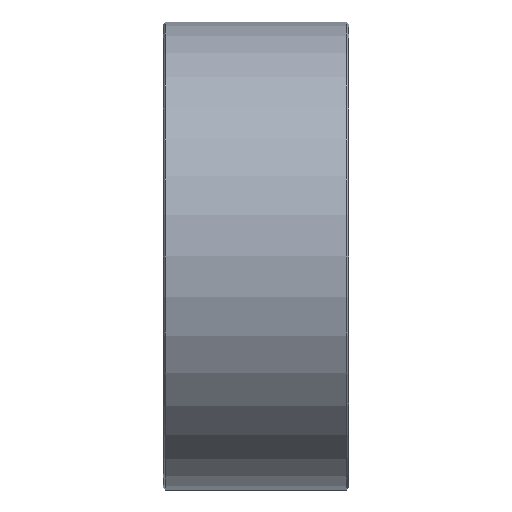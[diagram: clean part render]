
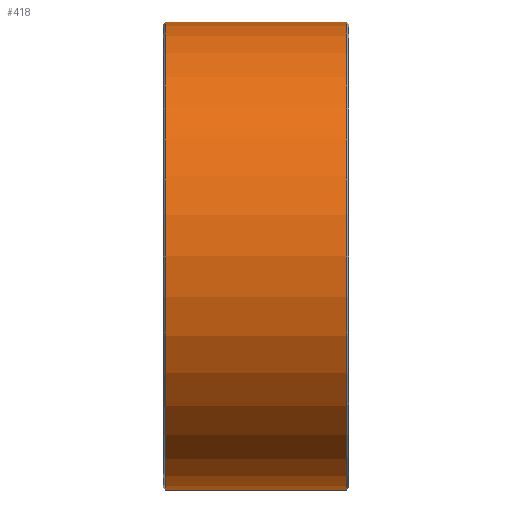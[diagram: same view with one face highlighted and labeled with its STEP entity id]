
A CAD part, front view. The second image highlights one B-rep face of the part: STEP entity #418.
In plain terms, the highlighted cylindrical face has radius 75.5 mm (diameter 151 mm), a full revolution.
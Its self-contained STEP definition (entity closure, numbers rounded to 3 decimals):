
#13=B_SPLINE_CURVE_WITH_KNOTS('',3,(#676,#677,#678,#679,#680,#681,#682,
#683,#684,#685,#686,#687,#688,#689,#690,#691,#692,#693,#694,#695,#696,#697),
 .UNSPECIFIED.,.F.,.F.,(4,2,2,2,2,2,2,2,2,2,4),(0.,0.196,0.392,
0.588,0.784,0.98,1.176,1.372,
1.568,1.763,1.949),.UNSPECIFIED.);
#14=B_SPLINE_CURVE_WITH_KNOTS('',3,(#698,#699,#700,#701,#702,#703),
 .UNSPECIFIED.,.F.,.F.,(4,2,4),(2.754,2.939,3.135),
 .UNSPECIFIED.);
#15=B_SPLINE_CURVE_WITH_KNOTS('',3,(#715,#716,#717,#718,#719,#720,#721,
#722,#723,#724,#725,#726,#727,#728,#729,#730,#731,#732,#733,#734,#735,#736),
 .UNSPECIFIED.,.F.,.F.,(4,2,2,2,2,2,2,2,2,2,4),(1.186,1.372,
1.568,1.763,1.959,2.155,2.351,
2.547,2.743,2.939,3.135),
 .UNSPECIFIED.);
#16=B_SPLINE_CURVE_WITH_KNOTS('',3,(#737,#738,#739,#740,#741,#742),
 .UNSPECIFIED.,.F.,.F.,(4,2,4),(0.,0.196,0.381),
 .UNSPECIFIED.);
#21=LINE('',#651,#33);
#22=LINE('',#654,#34);
#26=LINE('',#664,#38);
#30=LINE('',#671,#42);
#33=VECTOR('',#518,24.949);
#34=VECTOR('',#521,9.846);
#38=VECTOR('',#531,24.949);
#42=VECTOR('',#537,9.846);
#66=FACE_OUTER_BOUND('',#136,.T.);
#82=CYLINDRICAL_SURFACE('',#462,75.5);
#97=FACE_BOUND('',#137,.T.);
#98=FACE_BOUND('',#138,.T.);
#136=EDGE_LOOP('',(#317));
#137=EDGE_LOOP('',(#318,#319,#320,#321,#322,#323,#324,#325));
#138=EDGE_LOOP('',(#326));
#178=CIRCLE('',#463,75.5);
#179=CIRCLE('',#464,75.5);
#193=VERTEX_POINT('',#620);
#195=VERTEX_POINT('',#625);
#200=VERTEX_POINT('',#649);
#201=VERTEX_POINT('',#653);
#204=VERTEX_POINT('',#663);
#206=VERTEX_POINT('',#669);
#207=VERTEX_POINT('',#675);
#211=VERTEX_POINT('',#712);
#212=VERTEX_POINT('',#714);
#213=VERTEX_POINT('',#743);
#238=EDGE_CURVE('',#193,#200,#21,.T.);
#239=EDGE_CURVE('',#201,#193,#22,.T.);
#244=EDGE_CURVE('',#204,#195,#26,.T.);
#248=EDGE_CURVE('',#195,#206,#30,.T.);
#250=EDGE_CURVE('',#207,#204,#13,.T.);
#251=EDGE_CURVE('',#200,#207,#14,.T.);
#255=EDGE_CURVE('',#211,#211,#178,.T.);
#256=EDGE_CURVE('',#206,#212,#15,.T.);
#257=EDGE_CURVE('',#212,#201,#16,.T.);
#258=EDGE_CURVE('',#213,#213,#179,.T.);
#317=ORIENTED_EDGE('',*,*,#255,.T.);
#318=ORIENTED_EDGE('',*,*,#238,.T.);
#319=ORIENTED_EDGE('',*,*,#251,.T.);
#320=ORIENTED_EDGE('',*,*,#250,.T.);
#321=ORIENTED_EDGE('',*,*,#244,.T.);
#322=ORIENTED_EDGE('',*,*,#248,.T.);
#323=ORIENTED_EDGE('',*,*,#256,.T.);
#324=ORIENTED_EDGE('',*,*,#257,.T.);
#325=ORIENTED_EDGE('',*,*,#239,.T.);
#326=ORIENTED_EDGE('',*,*,#258,.F.);
#418=ADVANCED_FACE('',(#66,#97,#98),#82,.T.);
#462=AXIS2_PLACEMENT_3D('',#711,#552,#553);
#463=AXIS2_PLACEMENT_3D('',#713,#554,#555);
#464=AXIS2_PLACEMENT_3D('',#744,#556,#557);
#518=DIRECTION('',(1.,0.,0.));
#521=DIRECTION('',(1.,0.,0.));
#531=DIRECTION('',(-1.,0.,0.));
#537=DIRECTION('',(-1.,0.,0.));
#552=DIRECTION('center_axis',(1.,0.,0.));
#553=DIRECTION('ref_axis',(0.,1.,0.));
#554=DIRECTION('center_axis',(1.,0.,0.));
#555=DIRECTION('ref_axis',(0.,1.,0.));
#556=DIRECTION('center_axis',(1.,0.,0.));
#557=DIRECTION('ref_axis',(0.,1.,0.));
#620=CARTESIAN_POINT('',(-7.552,75.407,-3.75));
#625=CARTESIAN_POINT('',(-7.552,75.407,3.75));
#649=CARTESIAN_POINT('',(17.398,75.407,-3.75));
#651=CARTESIAN_POINT('',(0.,75.407,-3.75));
#653=CARTESIAN_POINT('',(-17.398,75.407,-3.75));
#654=CARTESIAN_POINT('',(0.,75.407,-3.75));
#663=CARTESIAN_POINT('',(17.398,75.407,3.75));
#664=CARTESIAN_POINT('',(0.,75.407,3.75));
#669=CARTESIAN_POINT('',(-17.398,75.407,3.75));
#671=CARTESIAN_POINT('',(0.,75.407,3.75));
#675=CARTESIAN_POINT('',(21.,75.321,-5.2));
#676=CARTESIAN_POINT('Ctrl Pts',(21.,75.321,-5.2));
#677=CARTESIAN_POINT('Ctrl Pts',(21.653,75.321,-5.2));
#678=CARTESIAN_POINT('Ctrl Pts',(22.35,75.33,-5.069));
#679=CARTESIAN_POINT('Ctrl Pts',(23.631,75.364,-4.539));
#680=CARTESIAN_POINT('Ctrl Pts',(24.215,75.388,-4.139));
#681=CARTESIAN_POINT('Ctrl Pts',(25.139,75.433,-3.215));
#682=CARTESIAN_POINT('Ctrl Pts',(25.539,75.457,-2.631));
#683=CARTESIAN_POINT('Ctrl Pts',(26.069,75.491,-1.35));
#684=CARTESIAN_POINT('Ctrl Pts',(26.2,75.5,-0.653));
#685=CARTESIAN_POINT('Ctrl Pts',(26.2,75.5,0.653));
#686=CARTESIAN_POINT('Ctrl Pts',(26.069,75.491,1.35));
#687=CARTESIAN_POINT('Ctrl Pts',(25.539,75.457,2.631));
#688=CARTESIAN_POINT('Ctrl Pts',(25.139,75.433,3.215));
#689=CARTESIAN_POINT('Ctrl Pts',(24.215,75.388,4.139));
#690=CARTESIAN_POINT('Ctrl Pts',(23.631,75.364,4.539));
#691=CARTESIAN_POINT('Ctrl Pts',(22.35,75.33,5.069));
#692=CARTESIAN_POINT('Ctrl Pts',(21.653,75.321,5.2));
#693=CARTESIAN_POINT('Ctrl Pts',(20.347,75.321,5.2));
#694=CARTESIAN_POINT('Ctrl Pts',(19.65,75.33,5.069));
#695=CARTESIAN_POINT('Ctrl Pts',(18.403,75.363,4.553));
#696=CARTESIAN_POINT('Ctrl Pts',(17.846,75.385,4.181));
#697=CARTESIAN_POINT('Ctrl Pts',(17.398,75.407,3.75));
#698=CARTESIAN_POINT('Ctrl Pts',(17.398,75.407,-3.75));
#699=CARTESIAN_POINT('Ctrl Pts',(17.846,75.385,-4.181));
#700=CARTESIAN_POINT('Ctrl Pts',(18.403,75.363,-4.553));
#701=CARTESIAN_POINT('Ctrl Pts',(19.65,75.33,-5.069));
#702=CARTESIAN_POINT('Ctrl Pts',(20.347,75.321,-5.2));
#703=CARTESIAN_POINT('Ctrl Pts',(21.,75.321,-5.2));
#711=CARTESIAN_POINT('Origin',(0.,0.,0.));
#712=CARTESIAN_POINT('',(-29.293,75.5,0.));
#713=CARTESIAN_POINT('Origin',(-29.293,0.,0.));
#714=CARTESIAN_POINT('',(-21.,75.321,-5.2));
#715=CARTESIAN_POINT('Ctrl Pts',(-17.398,75.407,3.75));
#716=CARTESIAN_POINT('Ctrl Pts',(-17.846,75.385,4.181));
#717=CARTESIAN_POINT('Ctrl Pts',(-18.403,75.363,4.553));
#718=CARTESIAN_POINT('Ctrl Pts',(-19.65,75.33,5.069));
#719=CARTESIAN_POINT('Ctrl Pts',(-20.347,75.321,5.2));
#720=CARTESIAN_POINT('Ctrl Pts',(-21.653,75.321,5.2));
#721=CARTESIAN_POINT('Ctrl Pts',(-22.35,75.33,5.069));
#722=CARTESIAN_POINT('Ctrl Pts',(-23.631,75.364,4.539));
#723=CARTESIAN_POINT('Ctrl Pts',(-24.215,75.388,4.139));
#724=CARTESIAN_POINT('Ctrl Pts',(-25.139,75.433,3.215));
#725=CARTESIAN_POINT('Ctrl Pts',(-25.539,75.457,2.631));
#726=CARTESIAN_POINT('Ctrl Pts',(-26.069,75.491,1.35));
#727=CARTESIAN_POINT('Ctrl Pts',(-26.2,75.5,0.653));
#728=CARTESIAN_POINT('Ctrl Pts',(-26.2,75.5,-0.653));
#729=CARTESIAN_POINT('Ctrl Pts',(-26.069,75.491,-1.35));
#730=CARTESIAN_POINT('Ctrl Pts',(-25.539,75.457,-2.631));
#731=CARTESIAN_POINT('Ctrl Pts',(-25.139,75.433,-3.215));
#732=CARTESIAN_POINT('Ctrl Pts',(-24.215,75.388,-4.139));
#733=CARTESIAN_POINT('Ctrl Pts',(-23.631,75.364,-4.539));
#734=CARTESIAN_POINT('Ctrl Pts',(-22.35,75.33,-5.069));
#735=CARTESIAN_POINT('Ctrl Pts',(-21.653,75.321,-5.2));
#736=CARTESIAN_POINT('Ctrl Pts',(-21.,75.321,-5.2));
#737=CARTESIAN_POINT('Ctrl Pts',(-21.,75.321,-5.2));
#738=CARTESIAN_POINT('Ctrl Pts',(-20.347,75.321,-5.2));
#739=CARTESIAN_POINT('Ctrl Pts',(-19.65,75.33,-5.069));
#740=CARTESIAN_POINT('Ctrl Pts',(-18.403,75.363,-4.553));
#741=CARTESIAN_POINT('Ctrl Pts',(-17.846,75.385,-4.181));
#742=CARTESIAN_POINT('Ctrl Pts',(-17.398,75.407,-3.75));
#743=CARTESIAN_POINT('',(29.293,75.5,0.));
#744=CARTESIAN_POINT('Origin',(29.293,0.,0.));
